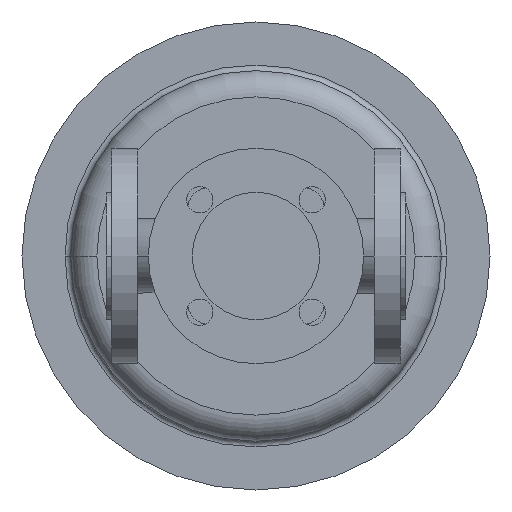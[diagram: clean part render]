
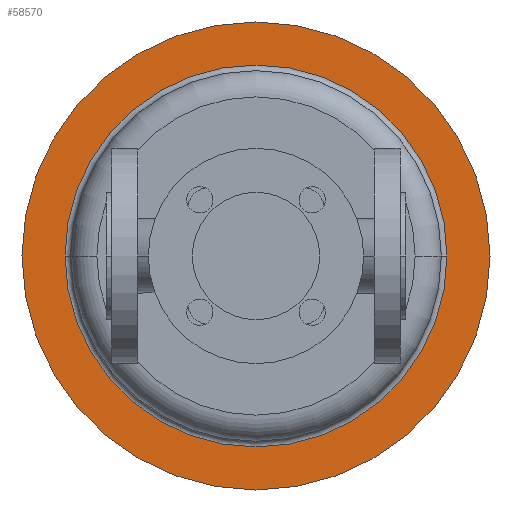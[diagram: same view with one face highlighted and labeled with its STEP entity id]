
A CAD part, front view. The second image highlights one B-rep face of the part: STEP entity #58570.
In plain terms, the highlighted planar face has unit normal (0, -1, 0).
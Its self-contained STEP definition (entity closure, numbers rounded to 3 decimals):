
#47400=CARTESIAN_POINT('',(205.,572.,0.));
#47410=VERTEX_POINT('',#47400);
#47570=CARTESIAN_POINT('',(-45.,572.,0.));
#47580=VERTEX_POINT('',#47570);
#47610=CARTESIAN_POINT('',(80.,572.,0.));
#47620=DIRECTION('',(0.,1.,0.));
#47630=DIRECTION('',(1.,0.,0.));
#47640=AXIS2_PLACEMENT_3D('',#47610,#47620,#47630);
#47650=CIRCLE('',#47640,125.);
#47660=EDGE_CURVE('',#47410,#47580,#47650,.T.);
#47760=CARTESIAN_POINT('',(80.,572.,0.));
#47770=DIRECTION('',(0.,1.,0.));
#47780=DIRECTION('',(1.,0.,0.));
#47790=AXIS2_PLACEMENT_3D('',#47760,#47770,#47780);
#47800=CIRCLE('',#47790,102.);
#47810=CARTESIAN_POINT('',(80.,572.,-102.));
#47820=VERTEX_POINT('',#47810);
#47830=CARTESIAN_POINT('',(-22.,572.,0.));
#47840=VERTEX_POINT('',#47830);
#47850=EDGE_CURVE('',#47820,#47840,#47800,.T.);
#48100=CARTESIAN_POINT('',(182.,572.,0.));
#48110=VERTEX_POINT('',#48100);
#48140=EDGE_CURVE('',#48110,#47820,#47800,.T.);
#58410=CARTESIAN_POINT('',(193.5,572.,0.));
#58420=DIRECTION('',(0.,-1.,0.));
#58430=DIRECTION('',(-1.,0.,0.));
#58440=AXIS2_PLACEMENT_3D('',#58410,#58420,#58430);
#58450=PLANE('',#58440);
#58460=EDGE_CURVE('',#47580,#47410,#47650,.T.);
#58470=ORIENTED_EDGE('',*,*,#58460,.F.);
#58480=ORIENTED_EDGE('',*,*,#47660,.F.);
#58490=EDGE_LOOP('',(#58480,#58470));
#58500=FACE_OUTER_BOUND('',#58490,.T.);
#58510=EDGE_CURVE('',#47840,#48110,#47800,.T.);
#58520=ORIENTED_EDGE('',*,*,#58510,.T.);
#58530=ORIENTED_EDGE('',*,*,#47850,.T.);
#58540=ORIENTED_EDGE('',*,*,#48140,.T.);
#58550=EDGE_LOOP('',(#58540,#58530,#58520));
#58560=FACE_BOUND('',#58550,.T.);
#58570=ADVANCED_FACE('',(#58500,#58560),#58450,.T.);
